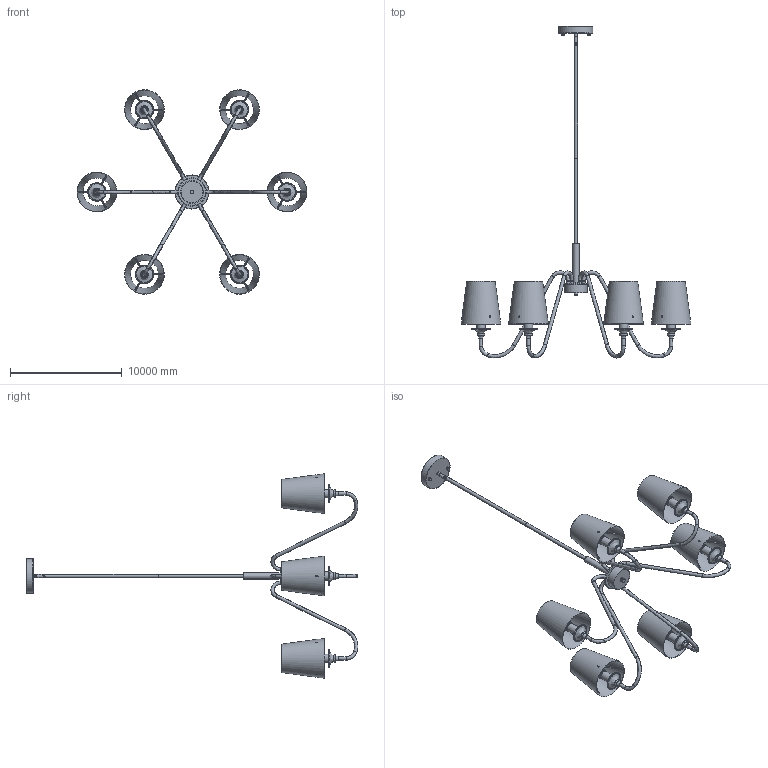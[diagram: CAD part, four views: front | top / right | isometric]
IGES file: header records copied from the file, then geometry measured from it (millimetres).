
Global section: file name: Gianna Chandelier-6heads-D31.9″,4; native system: 8HAutoCAD 2022 - 简体中文 (Simplified Chinese); preprocessor: Autodesk Translation Framework DWG producer (atf_dwg_producer); organization: unknown; date: 20251227.145714; units: inch
Bounding box: 20574 x 29701.73 x 18293.05 mm (x, y, z)
Volume: 17886160924.7 mm3; surface area: 886615281 mm2
Topology: 84 solids, 84 shells, 825 faces, 1945 edges, 1320 vertices
Faces by surface type: bspline 825
